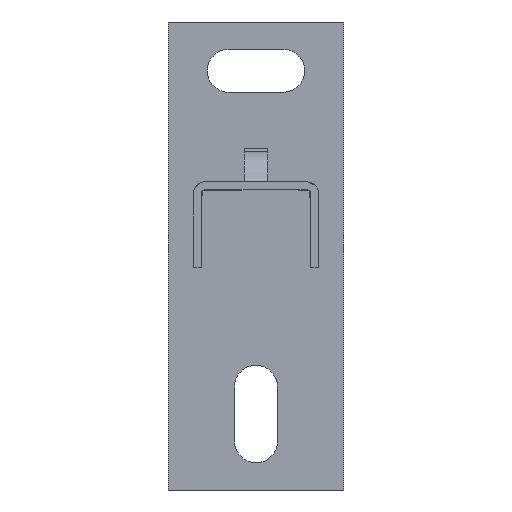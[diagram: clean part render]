
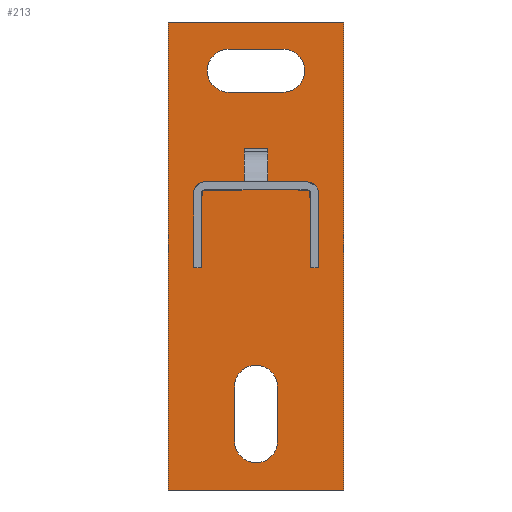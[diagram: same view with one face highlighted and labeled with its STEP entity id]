
A CAD part, front view. The second image highlights one B-rep face of the part: STEP entity #213.
In plain terms, the highlighted planar face has unit normal (0, -1, 0).
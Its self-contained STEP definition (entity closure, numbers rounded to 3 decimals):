
#213=ADVANCED_FACE($,(#373,#355,#356),#2129,.T.);
#355=FACE_BOUND($,#516,.T.);
#356=FACE_BOUND($,#517,.T.);
#373=FACE_OUTER_BOUND($,#515,.T.);
#515=EDGE_LOOP($,(#675,#676,#677,#678));
#516=EDGE_LOOP($,(#679,#680));
#517=EDGE_LOOP($,(#681,#682));
#675=ORIENTED_EDGE($,*,*,#1419,.T.);
#676=ORIENTED_EDGE($,*,*,#1430,.T.);
#677=ORIENTED_EDGE($,*,*,#1429,.T.);
#678=ORIENTED_EDGE($,*,*,#1428,.T.);
#679=ORIENTED_EDGE($,*,*,#1420,.T.);
#680=ORIENTED_EDGE($,*,*,#1438,.T.);
#681=ORIENTED_EDGE($,*,*,#1421,.T.);
#682=ORIENTED_EDGE($,*,*,#1441,.T.);
#1419=EDGE_CURVE($,#1791,#1799,#2361,.T.);
#1420=EDGE_CURVE($,#1792,#1803,#2139,.T.);
#1421=EDGE_CURVE($,#1793,#1805,#2140,.T.);
#1428=EDGE_CURVE($,#1797,#1791,#2366,.T.);
#1429=EDGE_CURVE($,#1798,#1797,#2367,.T.);
#1430=EDGE_CURVE($,#1799,#1798,#2368,.T.);
#1438=EDGE_CURVE($,#1803,#1792,#2143,.T.);
#1441=EDGE_CURVE($,#1805,#1793,#2145,.T.);
#1791=VERTEX_POINT($,#2738);
#1792=VERTEX_POINT($,#2739);
#1793=VERTEX_POINT($,#2740);
#1797=VERTEX_POINT($,#2744);
#1798=VERTEX_POINT($,#2745);
#1799=VERTEX_POINT($,#2746);
#1803=VERTEX_POINT($,#2750);
#1805=VERTEX_POINT($,#2752);
#2129=PLANE($,#2559);
#2139=(
BOUNDED_CURVE()
B_SPLINE_CURVE(2,(#2590,#2591,#2592,#2593,#2594,#2595,#2596),.UNSPECIFIED.,
.F.,.F.)
B_SPLINE_CURVE_WITH_KNOTS((3,2,2,3),(-111.115,-97.115,
-88.476,-79.836),.UNSPECIFIED.)
CURVE()
GEOMETRIC_REPRESENTATION_ITEM()
RATIONAL_B_SPLINE_CURVE((1.,1.,1.,0.707,1.,0.707,
1.))
REPRESENTATION_ITEM($)
);
#2140=(
BOUNDED_CURVE()
B_SPLINE_CURVE(2,(#2597,#2598,#2599,#2600,#2601,#2602,#2603),.UNSPECIFIED.,
.F.,.F.)
B_SPLINE_CURVE_WITH_KNOTS((3,2,2,3),(-111.115,-97.115,
-88.476,-79.836),.UNSPECIFIED.)
CURVE()
GEOMETRIC_REPRESENTATION_ITEM()
RATIONAL_B_SPLINE_CURVE((1.,1.,1.,0.707,1.,0.707,
1.))
REPRESENTATION_ITEM($)
);
#2143=(
BOUNDED_CURVE()
B_SPLINE_CURVE(2,(#2646,#2647,#2648,#2649,#2650,#2651,#2652),.UNSPECIFIED.,
.F.,.F.)
B_SPLINE_CURVE_WITH_KNOTS((3,2,2,3),(-79.836,-65.836,
-57.197,-48.558),.UNSPECIFIED.)
CURVE()
GEOMETRIC_REPRESENTATION_ITEM()
RATIONAL_B_SPLINE_CURVE((1.,1.,1.,0.707,1.,0.707,
1.))
REPRESENTATION_ITEM($)
);
#2145=(
BOUNDED_CURVE()
B_SPLINE_CURVE(2,(#2662,#2663,#2664,#2665,#2666,#2667,#2668),.UNSPECIFIED.,
.F.,.F.)
B_SPLINE_CURVE_WITH_KNOTS((3,2,2,3),(-79.836,-65.836,
-57.197,-48.558),.UNSPECIFIED.)
CURVE()
GEOMETRIC_REPRESENTATION_ITEM()
RATIONAL_B_SPLINE_CURVE((1.,1.,1.,0.707,1.,0.707,
1.))
REPRESENTATION_ITEM($)
);
#2361=B_SPLINE_CURVE_WITH_KNOTS($,1,(#2588,#2589),.UNSPECIFIED.,.F.,.F.,
(2,2),(0.,45.),.UNSPECIFIED.);
#2366=B_SPLINE_CURVE_WITH_KNOTS($,1,(#2626,#2627),.UNSPECIFIED.,.F.,.F.,
(2,2),(210.,330.),.UNSPECIFIED.);
#2367=B_SPLINE_CURVE_WITH_KNOTS($,1,(#2628,#2629),.UNSPECIFIED.,.F.,.F.,
(2,2),(165.,210.),.UNSPECIFIED.);
#2368=B_SPLINE_CURVE_WITH_KNOTS($,1,(#2630,#2631),.UNSPECIFIED.,.F.,.F.,
(2,2),(45.,165.),.UNSPECIFIED.);
#2559=AXIS2_PLACEMENT_3D($,#2676,#2573,$);
#2573=DIRECTION($,(0.,-1.,0.));
#2588=CARTESIAN_POINT($,(-22.5,0.,-120.));
#2589=CARTESIAN_POINT($,(22.5,0.,-120.));
#2590=CARTESIAN_POINT($,(-7.,0.,-7.));
#2591=CARTESIAN_POINT($,(0.,0.,-7.));
#2592=CARTESIAN_POINT($,(7.,0.,-7.));
#2593=CARTESIAN_POINT($,(12.5,0.,-7.));
#2594=CARTESIAN_POINT($,(12.5,0.,-12.5));
#2595=CARTESIAN_POINT($,(12.5,0.,-18.));
#2596=CARTESIAN_POINT($,(7.,0.,-18.));
#2597=CARTESIAN_POINT($,(5.5,0.,-93.5));
#2598=CARTESIAN_POINT($,(5.5,0.,-100.5));
#2599=CARTESIAN_POINT($,(5.5,0.,-107.5));
#2600=CARTESIAN_POINT($,(5.5,0.,-113.));
#2601=CARTESIAN_POINT($,(0.,0.,-113.));
#2602=CARTESIAN_POINT($,(-5.5,0.,-113.));
#2603=CARTESIAN_POINT($,(-5.5,0.,-107.5));
#2626=CARTESIAN_POINT($,(-22.5,0.,0.));
#2627=CARTESIAN_POINT($,(-22.5,0.,-120.));
#2628=CARTESIAN_POINT($,(22.5,0.,0.));
#2629=CARTESIAN_POINT($,(-22.5,0.,0.));
#2630=CARTESIAN_POINT($,(22.5,0.,-120.));
#2631=CARTESIAN_POINT($,(22.5,0.,0.));
#2646=CARTESIAN_POINT($,(7.,0.,-18.));
#2647=CARTESIAN_POINT($,(0.,0.,-18.));
#2648=CARTESIAN_POINT($,(-7.,0.,-18.));
#2649=CARTESIAN_POINT($,(-12.5,0.,-18.));
#2650=CARTESIAN_POINT($,(-12.5,0.,-12.5));
#2651=CARTESIAN_POINT($,(-12.5,0.,-7.));
#2652=CARTESIAN_POINT($,(-7.,0.,-7.));
#2662=CARTESIAN_POINT($,(-5.5,0.,-107.5));
#2663=CARTESIAN_POINT($,(-5.5,0.,-100.5));
#2664=CARTESIAN_POINT($,(-5.5,0.,-93.5));
#2665=CARTESIAN_POINT($,(-5.5,0.,-88.));
#2666=CARTESIAN_POINT($,(0.,0.,-88.));
#2667=CARTESIAN_POINT($,(5.5,0.,-88.));
#2668=CARTESIAN_POINT($,(5.5,0.,-93.5));
#2676=CARTESIAN_POINT($,(-22.5,0.,-120.));
#2738=CARTESIAN_POINT($,(-22.5,0.,-120.));
#2739=CARTESIAN_POINT($,(-7.,0.,-7.));
#2740=CARTESIAN_POINT($,(5.5,0.,-93.5));
#2744=CARTESIAN_POINT($,(-22.5,0.,0.));
#2745=CARTESIAN_POINT($,(22.5,0.,0.));
#2746=CARTESIAN_POINT($,(22.5,0.,-120.));
#2750=CARTESIAN_POINT($,(7.,0.,-18.));
#2752=CARTESIAN_POINT($,(-5.5,0.,-107.5));
